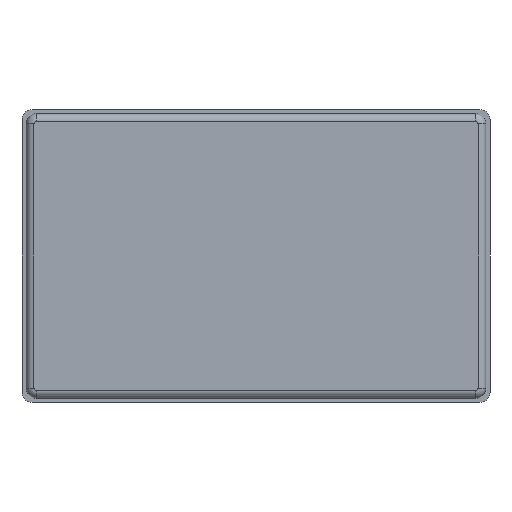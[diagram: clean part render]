
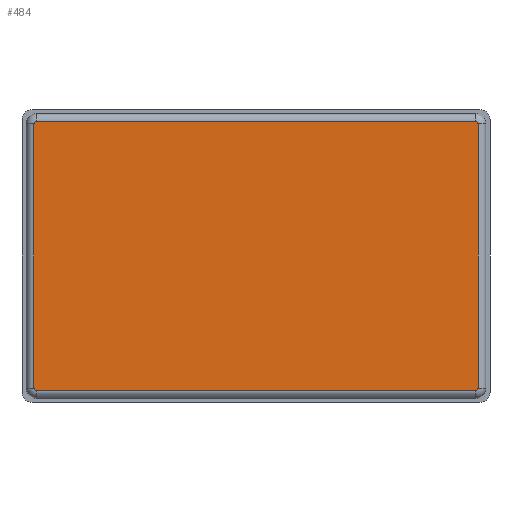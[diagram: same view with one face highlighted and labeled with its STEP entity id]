
A CAD part, front view. The second image highlights one B-rep face of the part: STEP entity #484.
In plain terms, the highlighted planar face has unit normal (0, -1, 0).
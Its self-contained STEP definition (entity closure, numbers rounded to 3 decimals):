
#32 = CARTESIAN_POINT ( 'NONE',  ( 42.4, 0., 26. ) ) ;
#95 = DIRECTION ( 'NONE',  ( 0., 0., 1. ) ) ;
#298 = CIRCLE ( 'NONE', #5600, 0.5 ) ;
#484 = ADVANCED_FACE ( 'NONE', ( #8065 ), #4809, .F. ) ;
#487 = EDGE_CURVE ( 'NONE', #922, #5692, #2022, .T. ) ;
#514 = DIRECTION ( 'NONE',  ( -1., 0., 0. ) ) ;
#679 = CARTESIAN_POINT ( 'NONE',  ( 42.9, 0., 25.5 ) ) ;
#789 = CARTESIAN_POINT ( 'NONE',  ( 42.9, 0., 25.5 ) ) ;
#922 = VERTEX_POINT ( 'NONE', #679 ) ;
#1064 = VERTEX_POINT ( 'NONE', #2053 ) ;
#1080 = VERTEX_POINT ( 'NONE', #7511 ) ;
#1150 = CARTESIAN_POINT ( 'NONE',  ( 42.4, 0., 25.5 ) ) ;
#1314 = VECTOR ( 'NONE', #3495, 1000. ) ;
#1325 = CARTESIAN_POINT ( 'NONE',  ( 0., 0., 0. ) ) ;
#1387 = CARTESIAN_POINT ( 'NONE',  ( 42.4, 0., -26. ) ) ;
#1764 = EDGE_CURVE ( 'NONE', #2156, #922, #4990, .T. ) ;
#1861 = DIRECTION ( 'NONE',  ( 0., 0., 1. ) ) ;
#2022 = CIRCLE ( 'NONE', #5039, 0.5 ) ;
#2053 = CARTESIAN_POINT ( 'NONE',  ( 42.4, 0., -26. ) ) ;
#2083 = CARTESIAN_POINT ( 'NONE',  ( -42.4, 0., 25.5 ) ) ;
#2105 = VERTEX_POINT ( 'NONE', #2748 ) ;
#2124 = EDGE_CURVE ( 'NONE', #2787, #1064, #3607, .T. ) ;
#2156 = VERTEX_POINT ( 'NONE', #4888 ) ;
#2438 = ORIENTED_EDGE ( 'NONE', *, *, #1764, .T. ) ;
#2447 = DIRECTION ( 'NONE',  ( 0., -1., 0. ) ) ;
#2469 = ORIENTED_EDGE ( 'NONE', *, *, #487, .T. ) ;
#2748 = CARTESIAN_POINT ( 'NONE',  ( -42.4, 0., 26. ) ) ;
#2761 = DIRECTION ( 'NONE',  ( 0., 0., 1. ) ) ;
#2787 = VERTEX_POINT ( 'NONE', #3256 ) ;
#2908 = EDGE_CURVE ( 'NONE', #2105, #1080, #3724, .T. ) ;
#3239 = DIRECTION ( 'NONE',  ( 0., 0., 1. ) ) ;
#3256 = CARTESIAN_POINT ( 'NONE',  ( -42.4, 0., -26. ) ) ;
#3337 = CARTESIAN_POINT ( 'NONE',  ( -42.9, 0., -25.5 ) ) ;
#3495 = DIRECTION ( 'NONE',  ( 1., 0., 0. ) ) ;
#3539 = VERTEX_POINT ( 'NONE', #3337 ) ;
#3567 = ORIENTED_EDGE ( 'NONE', *, *, #6233, .T. ) ;
#3607 = LINE ( 'NONE', #1387, #1314 ) ;
#3624 = ORIENTED_EDGE ( 'NONE', *, *, #2908, .T. ) ;
#3724 = CIRCLE ( 'NONE', #5677, 0.5 ) ;
#4008 = DIRECTION ( 'NONE',  ( 0., -1., 0. ) ) ;
#4552 = CARTESIAN_POINT ( 'NONE',  ( -42.9, 0., -25.5 ) ) ;
#4607 = EDGE_CURVE ( 'NONE', #3539, #2787, #8931, .T. ) ;
#4809 = PLANE ( 'NONE',  #7349 ) ;
#4888 = CARTESIAN_POINT ( 'NONE',  ( 42.9, 0., -25.5 ) ) ;
#4960 = EDGE_CURVE ( 'NONE', #1064, #2156, #298, .T. ) ;
#4990 = LINE ( 'NONE', #789, #8419 ) ;
#4999 = ORIENTED_EDGE ( 'NONE', *, *, #4607, .T. ) ;
#5007 = ORIENTED_EDGE ( 'NONE', *, *, #4960, .T. ) ;
#5039 = AXIS2_PLACEMENT_3D ( 'NONE', #1150, #6009, #1861 ) ;
#5223 = VECTOR ( 'NONE', #514, 1000. ) ;
#5600 = AXIS2_PLACEMENT_3D ( 'NONE', #6616, #2447, #7311 ) ;
#5677 = AXIS2_PLACEMENT_3D ( 'NONE', #2083, #6922, #2761 ) ;
#5692 = VERTEX_POINT ( 'NONE', #32 ) ;
#5776 = ORIENTED_EDGE ( 'NONE', *, *, #8436, .T. ) ;
#6009 = DIRECTION ( 'NONE',  ( 0., -1., 0. ) ) ;
#6233 = EDGE_CURVE ( 'NONE', #5692, #2105, #7266, .T. ) ;
#6616 = CARTESIAN_POINT ( 'NONE',  ( 42.4, 0., -25.5 ) ) ;
#6654 = EDGE_LOOP ( 'NONE', ( #3567, #3624, #5776, #4999, #7643, #5007, #2438, #2469 ) ) ;
#6922 = DIRECTION ( 'NONE',  ( 0., -1., 0. ) ) ;
#7252 = VECTOR ( 'NONE', #7978, 1000. ) ;
#7266 = LINE ( 'NONE', #7459, #5223 ) ;
#7311 = DIRECTION ( 'NONE',  ( 0., 0., 1. ) ) ;
#7349 = AXIS2_PLACEMENT_3D ( 'NONE', #1325, #8885, #3239 ) ;
#7458 = LINE ( 'NONE', #4552, #7252 ) ;
#7459 = CARTESIAN_POINT ( 'NONE',  ( -42.4, 0., 26. ) ) ;
#7511 = CARTESIAN_POINT ( 'NONE',  ( -42.9, 0., 25.5 ) ) ;
#7643 = ORIENTED_EDGE ( 'NONE', *, *, #2124, .T. ) ;
#7978 = DIRECTION ( 'NONE',  ( 0., 0., -1. ) ) ;
#8065 = FACE_OUTER_BOUND ( 'NONE', #6654, .T. ) ;
#8135 = CARTESIAN_POINT ( 'NONE',  ( -42.4, 0., -25.5 ) ) ;
#8191 = AXIS2_PLACEMENT_3D ( 'NONE', #8135, #4008, #8823 ) ;
#8419 = VECTOR ( 'NONE', #95, 1000. ) ;
#8436 = EDGE_CURVE ( 'NONE', #1080, #3539, #7458, .T. ) ;
#8823 = DIRECTION ( 'NONE',  ( 0., 0., 1. ) ) ;
#8885 = DIRECTION ( 'NONE',  ( 0., 1., 0. ) ) ;
#8931 = CIRCLE ( 'NONE', #8191, 0.5 ) ;
